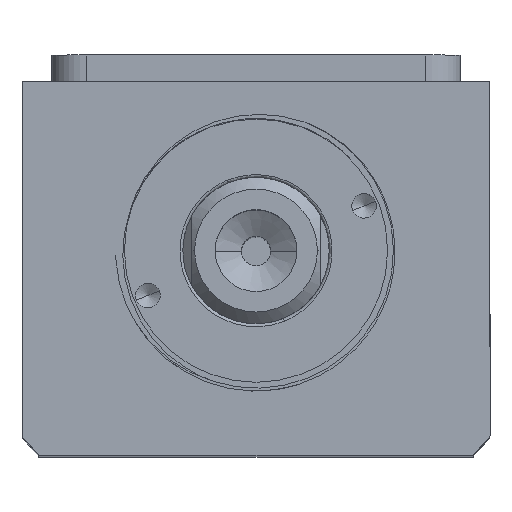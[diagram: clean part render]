
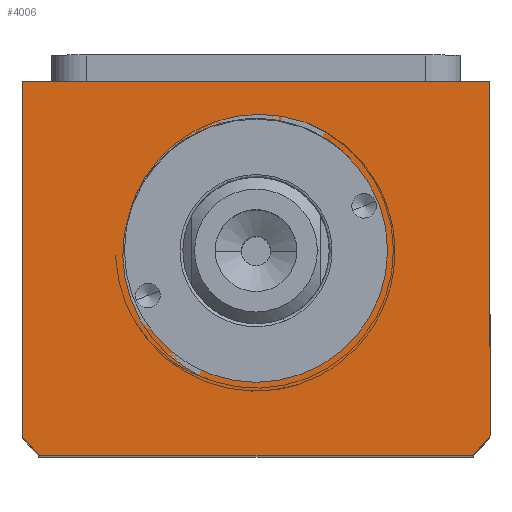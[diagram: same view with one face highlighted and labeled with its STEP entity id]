
A CAD part, top view. The second image highlights one B-rep face of the part: STEP entity #4006.
In plain terms, the highlighted planar face has unit normal (0, 0, 1).
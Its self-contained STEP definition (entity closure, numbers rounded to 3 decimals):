
#58 = DIRECTION ( 'NONE',  ( 1., 0., 0. ) ) ;
#164 = CARTESIAN_POINT ( 'NONE',  ( 40., -28.639, 155. ) ) ;
#185 = CARTESIAN_POINT ( 'NONE',  ( 0., 3., 155. ) ) ;
#223 = DIRECTION ( 'NONE',  ( 0., 0., 1. ) ) ;
#262 = DIRECTION ( 'NONE',  ( 0., 0., 1. ) ) ;
#415 = LINE ( 'NONE', #4796, #2312 ) ;
#458 = VERTEX_POINT ( 'NONE', #9973 ) ;
#729 = ORIENTED_EDGE ( 'NONE', *, *, #1487, .T. ) ;
#732 = VERTEX_POINT ( 'NONE', #1861 ) ;
#1275 = FACE_BOUND ( 'NONE', #5461, .T. ) ;
#1487 = EDGE_CURVE ( 'NONE', #458, #4085, #415, .T. ) ;
#1532 = EDGE_CURVE ( 'NONE', #732, #7868, #2045, .T. ) ;
#1634 = CARTESIAN_POINT ( 'NONE',  ( 40., 32., 155. ) ) ;
#1637 = LINE ( 'NONE', #4521, #8014 ) ;
#1796 = DIRECTION ( 'NONE',  ( 0., 0., 1. ) ) ;
#1861 = CARTESIAN_POINT ( 'NONE',  ( 22.5, 3., 155. ) ) ;
#1879 = LINE ( 'NONE', #5314, #3517 ) ;
#1933 = CARTESIAN_POINT ( 'NONE',  ( 37.094, -32., 155. ) ) ;
#2045 = CIRCLE ( 'NONE', #5028, 22.5 ) ;
#2312 = VECTOR ( 'NONE', #6790, 1000. ) ;
#2634 = AXIS2_PLACEMENT_3D ( 'NONE', #6588, #1796, #7386 ) ;
#2703 = CARTESIAN_POINT ( 'NONE',  ( 0., 3., 155. ) ) ;
#2721 = ORIENTED_EDGE ( 'NONE', *, *, #8293, .F. ) ;
#2947 = AXIS2_PLACEMENT_3D ( 'NONE', #4776, #10329, #5562 ) ;
#3227 = EDGE_CURVE ( 'NONE', #4085, #9441, #6116, .T. ) ;
#3500 = DIRECTION ( 'NONE',  ( 1., 0., 0. ) ) ;
#3517 = VECTOR ( 'NONE', #3716, 1000. ) ;
#3559 = ORIENTED_EDGE ( 'NONE', *, *, #6145, .T. ) ;
#3716 = DIRECTION ( 'NONE',  ( -1., 0., 0. ) ) ;
#3744 = LINE ( 'NONE', #1634, #9825 ) ;
#3802 = EDGE_CURVE ( 'NONE', #9441, #6616, #3744, .T. ) ;
#3831 = ORIENTED_EDGE ( 'NONE', *, *, #5151, .T. ) ;
#3866 = ORIENTED_EDGE ( 'NONE', *, *, #5117, .T. ) ;
#4006 = ADVANCED_FACE ( 'NONE', ( #1275, #9503 ), #4209, .T. ) ;
#4031 = CIRCLE ( 'NONE', #2634, 22.5 ) ;
#4085 = VERTEX_POINT ( 'NONE', #1933 ) ;
#4209 = PLANE ( 'NONE',  #9268 ) ;
#4327 = CARTESIAN_POINT ( 'NONE',  ( -40., 32., 155. ) ) ;
#4521 = CARTESIAN_POINT ( 'NONE',  ( -40., 32., 155. ) ) ;
#4630 = CARTESIAN_POINT ( 'NONE',  ( -40., -28.639, 155. ) ) ;
#4776 = CARTESIAN_POINT ( 'NONE',  ( 0., 3., 155. ) ) ;
#4790 = AXIS2_PLACEMENT_3D ( 'NONE', #2703, #8268, #3500 ) ;
#4796 = CARTESIAN_POINT ( 'NONE',  ( -40., -32., 155. ) ) ;
#5028 = AXIS2_PLACEMENT_3D ( 'NONE', #185, #223, #58 ) ;
#5117 = EDGE_CURVE ( 'NONE', #9944, #5353, #1637, .T. ) ;
#5151 = EDGE_CURVE ( 'NONE', #6616, #9944, #1879, .T. ) ;
#5190 = CARTESIAN_POINT ( 'NONE',  ( -22.5, 3., 155. ) ) ;
#5314 = CARTESIAN_POINT ( 'NONE',  ( -40., 32., 155. ) ) ;
#5353 = VERTEX_POINT ( 'NONE', #4630 ) ;
#5461 = EDGE_LOOP ( 'NONE', ( #5487, #2721 ) ) ;
#5487 = ORIENTED_EDGE ( 'NONE', *, *, #1532, .F. ) ;
#5507 = ORIENTED_EDGE ( 'NONE', *, *, #3227, .T. ) ;
#5562 = DIRECTION ( 'NONE',  ( 1., 0., 0. ) ) ;
#5843 = DIRECTION ( 'NONE',  ( 1., 0., 0. ) ) ;
#6083 = EDGE_LOOP ( 'NONE', ( #3866, #3559, #729, #5507, #8314, #3831 ) ) ;
#6116 = CIRCLE ( 'NONE', #4790, 51. ) ;
#6145 = EDGE_CURVE ( 'NONE', #5353, #458, #6895, .T. ) ;
#6588 = CARTESIAN_POINT ( 'NONE',  ( 0., 3., 155. ) ) ;
#6616 = VERTEX_POINT ( 'NONE', #7677 ) ;
#6790 = DIRECTION ( 'NONE',  ( 1., 0., 0. ) ) ;
#6895 = CIRCLE ( 'NONE', #2947, 51. ) ;
#7386 = DIRECTION ( 'NONE',  ( 1., 0., 0. ) ) ;
#7677 = CARTESIAN_POINT ( 'NONE',  ( 40., 32., 155. ) ) ;
#7868 = VERTEX_POINT ( 'NONE', #5190 ) ;
#8014 = VECTOR ( 'NONE', #10077, 1000. ) ;
#8026 = DIRECTION ( 'NONE',  ( 0., 1., 0. ) ) ;
#8268 = DIRECTION ( 'NONE',  ( 0., 0., 1. ) ) ;
#8293 = EDGE_CURVE ( 'NONE', #7868, #732, #4031, .T. ) ;
#8314 = ORIENTED_EDGE ( 'NONE', *, *, #3802, .T. ) ;
#9021 = CARTESIAN_POINT ( 'NONE',  ( 0., 0., 155. ) ) ;
#9268 = AXIS2_PLACEMENT_3D ( 'NONE', #9021, #262, #5843 ) ;
#9441 = VERTEX_POINT ( 'NONE', #164 ) ;
#9503 = FACE_OUTER_BOUND ( 'NONE', #6083, .T. ) ;
#9825 = VECTOR ( 'NONE', #8026, 1000. ) ;
#9944 = VERTEX_POINT ( 'NONE', #4327 ) ;
#9973 = CARTESIAN_POINT ( 'NONE',  ( -37.094, -32., 155. ) ) ;
#10077 = DIRECTION ( 'NONE',  ( 0., -1., 0. ) ) ;
#10329 = DIRECTION ( 'NONE',  ( 0., 0., 1. ) ) ;
